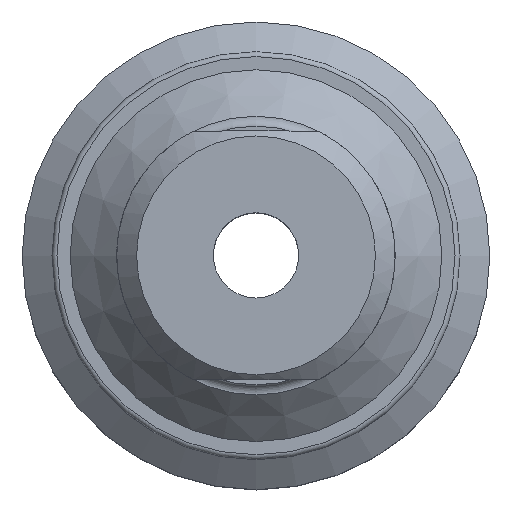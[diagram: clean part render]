
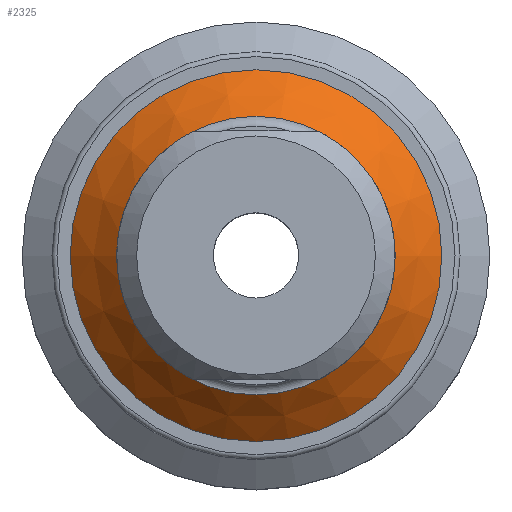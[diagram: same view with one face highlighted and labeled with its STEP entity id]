
A CAD part, top view. The second image highlights one B-rep face of the part: STEP entity #2325.
In plain terms, the highlighted conical face has half-angle 45.485 degrees and reference radius 18.678 mm.
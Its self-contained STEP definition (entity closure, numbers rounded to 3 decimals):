
#2325 = ADVANCED_FACE( '', ( #4803, #4804 ), #4805, .T. );
#4803 = FACE_BOUND( '', #6049, .T. );
#4804 = FACE_OUTER_BOUND( '', #6050, .T. );
#4805 = CONICAL_SURFACE( '', #6051, 18.679, 0.794 );
#6049 = EDGE_LOOP( '', ( #8324 ) );
#6050 = EDGE_LOOP( '', ( #8325 ) );
#6051 = AXIS2_PLACEMENT_3D( '', #8326, #8327, #8328 );
#8324 = ORIENTED_EDGE( '', *, *, #11685, .T. );
#8325 = ORIENTED_EDGE( '', *, *, #11684, .F. );
#8326 = CARTESIAN_POINT( '', ( 0., 0., 5.928 ) );
#8327 = DIRECTION( '', ( 0., 0., -1. ) );
#8328 = DIRECTION( '', ( -1., 0., 0. ) );
#11684 = EDGE_CURVE( '', #12940, #12940, #12941, .T. );
#11685 = EDGE_CURVE( '', #12942, #12942, #12943, .T. );
#12940 = VERTEX_POINT( '', #14588 );
#12941 = CIRCLE( '', #14589, 18.679 );
#12942 = VERTEX_POINT( '', #14590 );
#12943 = CIRCLE( '', #14591, 14. );
#14588 = CARTESIAN_POINT( '', ( -18.679, 0., 5.928 ) );
#14589 = AXIS2_PLACEMENT_3D( '', #15057, #15058, #15059 );
#14590 = CARTESIAN_POINT( '', ( -14., 0., 10.528 ) );
#14591 = AXIS2_PLACEMENT_3D( '', #15060, #15061, #15062 );
#15057 = CARTESIAN_POINT( '', ( 0., 0., 5.928 ) );
#15058 = DIRECTION( '', ( 0., 0., -1. ) );
#15059 = DIRECTION( '', ( -1., 0., 0. ) );
#15060 = CARTESIAN_POINT( '', ( 0., 0., 10.528 ) );
#15061 = DIRECTION( '', ( 0., 0., -1. ) );
#15062 = DIRECTION( '', ( -1., 0., 0. ) );
